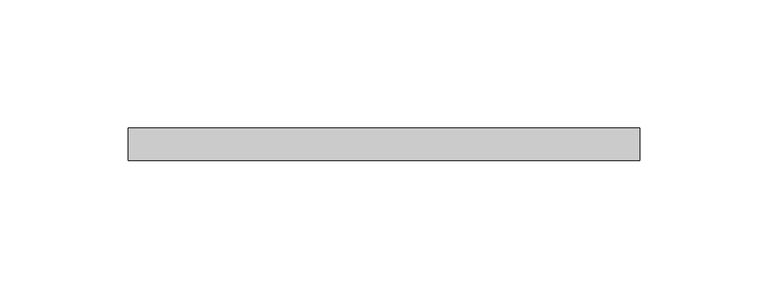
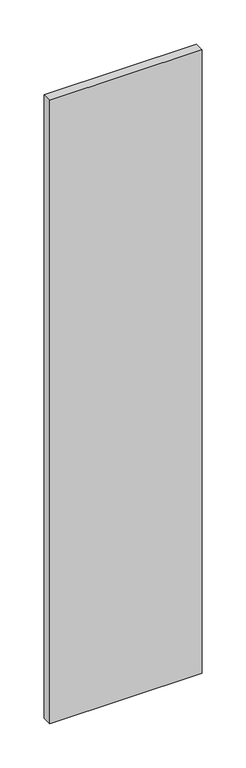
"""IFC4 building model written with IfcOpenShell, lengths in millimetres: proxy geometry, LIVERS_RZR - Glass Panel : LIVERS_RZR - Glass Panel."""

from ifc_helpers import new_model, si_unit, frame, origin, place, context, project, spatial, polyline, outline, extrude, source, transform, mapped, element, save


def building_element_proxy_0649ee88(model_context):
    return source(origin(), model_context, "Body", "SweptSolid", [
        extrude(outline(polyline([(712.3653379, 1.5872342), (512.758958, 1.5872342), (512.758958, 14.2874305), (712.3653379, 14.2874305), (712.3653379, 1.5872342)])), frame((0.0, 0.0, 114.3), z_axis=(0.0, 0.0, 1.0), x_axis=(1.0, 0.0, 0.0)), (0.0, 0.0, 1.0), 863.6),
    ])


if __name__ == "__main__":
    model = new_model("IFC4")
    model_context = context("Model", 3, world=origin())
    ifc_project = project(units=[si_unit("LENGTHUNIT", "METRE", prefix="MILLI")], contexts=[model_context])
    site = spatial("IfcSite", under=ifc_project)
    building = spatial("IfcBuilding", under=site)
    placement = place(None, origin())
    building_element_proxy_shape = building_element_proxy_0649ee88(model_context)
    element("IfcBuildingElementProxy", 1, Name="LIVERS_RZR - Glass Panel : LIVERS_RZR - Glass Panel", ObjectType="LIVERS_RZR - Glass Panel : LIVERS_RZR - Glass Panel", at=placement, inside=building, context=model_context, shape_type="MappedRepresentation", body=[
        mapped(building_element_proxy_shape, transform((0.0, 0.0, 0.0), x_axis=(1.0, 0.0, 0.0), y_axis=(0.0, 1.0, 0.0), z_axis=(0.0, 0.0, 1.0))),
    ])
    save(model, "model.ifc")
